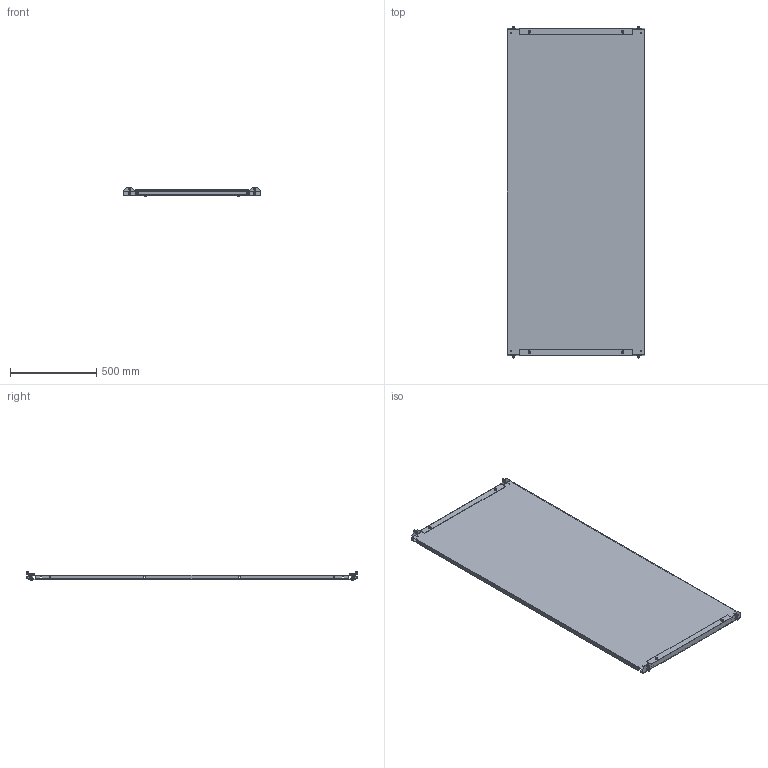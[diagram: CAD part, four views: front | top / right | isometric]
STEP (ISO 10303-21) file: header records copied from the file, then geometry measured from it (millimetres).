
FILE_DESCRIPTION(('Open CASCADE Model'),'2;1');
FILE_NAME('Open CASCADE Shape Model','2025-02-13T16:49:50',('Author'),( 'Open CASCADE'),'Open CASCADE STEP processor 7.8','Open CASCADE 7.8' ,'Unknown');
FILE_SCHEMA(('AUTOMOTIVE_DESIGN { 1 0 10303 214 1 1 1 1 }'));
Length unit declared in the file: millimetre
Products named in the file (11): Compound1; Solid1; Compound2; Solid2; Solid3; Solid4; Solid5; Solid6; Solid7; Solid8; Solid9
Assembly tree (38 placements, depth 3):
  Compound1
    Solid1
    Compound2  x2
      Solid2
      Solid3
    Solid4  x4
    Solid5  x4
    Solid6  x4
    Solid7  x4
    Solid8  x8
    Solid9  x8
Bounding box: 800 x 1926 x 55.3 mm (x, y, z)
Volume: 4654516.8 mm3; surface area: 3757333.1 mm2
Topology: 39 solids, 39 shells, 2692 faces, 7206 edges, 4528 vertices
Faces by surface type: plane 1298, cylinder 730, bspline 304, cone 228, torus 128, sphere 4
Full cylindrical faces by diameter (mm): 5 x12, 6 x16, 6.5 x8, 6.8 x32, 8 x4, 8.3 x8, 8.4 x4, 9.5 x8, 10.1 x4, 10.44 x4, 10.5 x4, 11.57 x8, 12 x4, 12.65 x4, 16 x12, 16.55 x4
Entity records: 23066 total; most frequent: CARTESIAN_POINT 6118, ORIENTED_EDGE 3604, DIRECTION 3274, EDGE_CURVE 1802, VERTEX_POINT 1154, LINE 1150, VECTOR 1150, AXIS2_PLACEMENT_3D 1062
